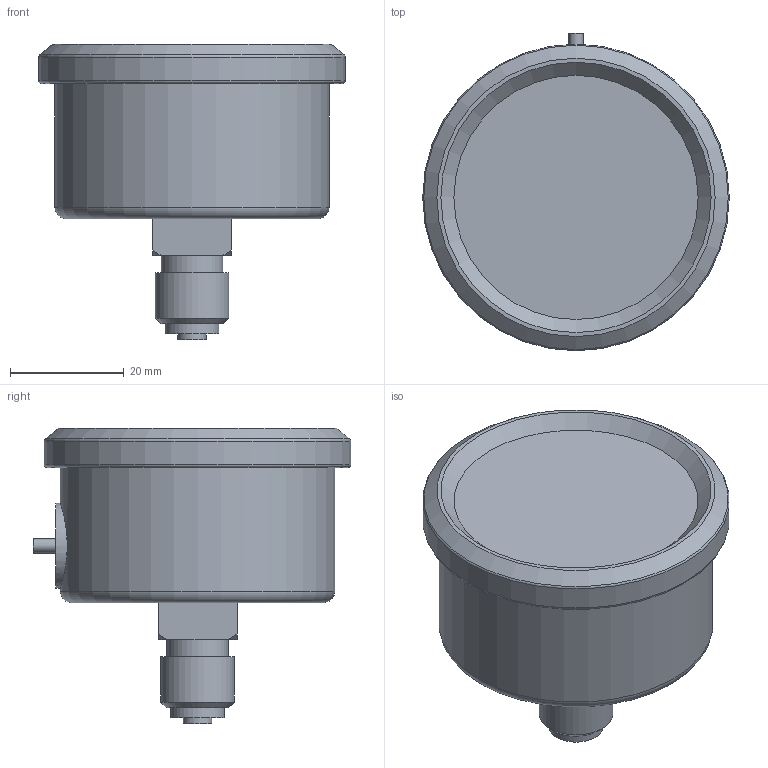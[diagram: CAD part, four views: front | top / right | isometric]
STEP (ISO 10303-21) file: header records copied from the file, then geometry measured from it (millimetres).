
FILE_DESCRIPTION((''),'2;1');
FILE_NAME('F:\AirCom-Produktdokumentation\Druckmessgeraete\MS5002\CAD\CAD AirCom\3D\B-MS5002.stp','2009-12-14T09:08:58',('Frank Schroers'),(''),'Autodesk Inventor 2008','Autodesk Inventor 2008','');
FILE_SCHEMA(('AUTOMOTIVE_DESIGN { 1 0 10303 214 1 1 1 1 }'));
Length unit declared in the file: millimetre
Products named in the file (1): B-MS5002
Bounding box: 54 x 55.95 x 52 mm (x, y, z)
Volume: 57803.9 mm3; surface area: 10741 mm2
Topology: 1 solids, 1 shells, 37 faces, 69 edges, 45 vertices
Faces by surface type: plane 17, cylinder 10, cone 7, torus 3
Full cylindrical faces by diameter (mm): 2.5 x1, 3.65 x1, 5 x1, 9.5 x1, 10.8 x1, 13 x1, 15 x1, 48.3 x1, 50.141 x1, 54 x1
Entity records: 944 total; most frequent: CARTESIAN_POINT 232, DIRECTION 148, ORIENTED_EDGE 102, AXIS2_PLACEMENT_3D 68, EDGE_LOOP 64, EDGE_CURVE 51, VERTEX_POINT 43, FACE_OUTER_BOUND 37
